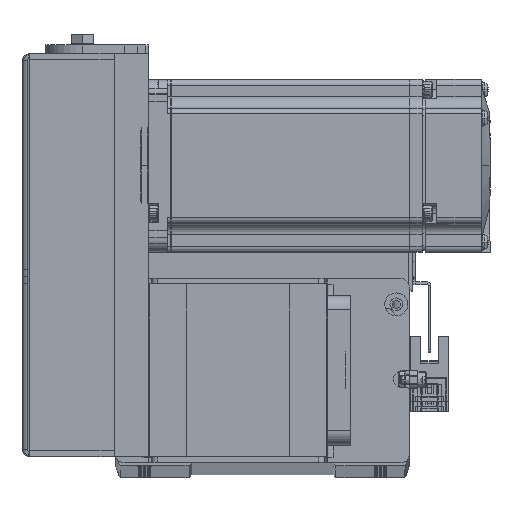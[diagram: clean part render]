
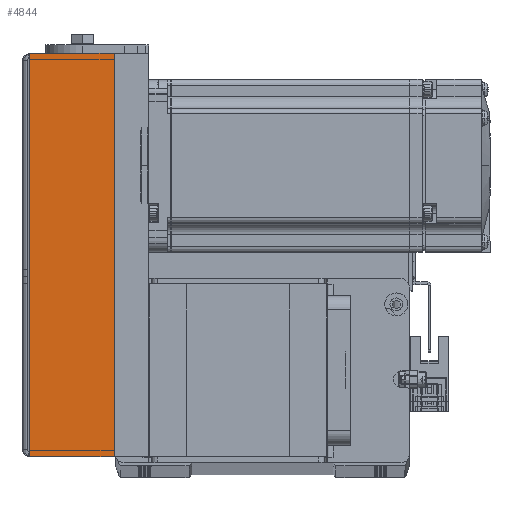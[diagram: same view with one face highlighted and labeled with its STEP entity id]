
A CAD part, top view. The second image highlights one B-rep face of the part: STEP entity #4844.
In plain terms, the highlighted planar face has unit normal (0, 0, 1).
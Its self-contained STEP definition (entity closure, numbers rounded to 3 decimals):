
#298 = EDGE_LOOP ( 'NONE', ( #17136, #13921, #48102, #11548 ) ) ;
#1461 = LINE ( 'NONE', #22924, #13846 ) ;
#2053 = EDGE_CURVE ( 'NONE', #31973, #32641, #30674, .T. ) ;
#3866 = DIRECTION ( 'NONE',  ( -1., 0., 0. ) ) ;
#3928 = DIRECTION ( 'NONE',  ( 0., 0., -1. ) ) ;
#4844 = ADVANCED_FACE ( 'NONE', ( #16045 ), #48688, .F. ) ;
#11548 = ORIENTED_EDGE ( 'NONE', *, *, #39100, .F. ) ;
#11998 = CARTESIAN_POINT ( 'NONE',  ( 0., -30., 31. ) ) ;
#12197 = CARTESIAN_POINT ( 'NONE',  ( 0., 0., 31. ) ) ;
#12518 = LINE ( 'NONE', #24589, #23619 ) ;
#13244 = VECTOR ( 'NONE', #31469, 1000. ) ;
#13846 = VECTOR ( 'NONE', #47291, 1000. ) ;
#13921 = ORIENTED_EDGE ( 'NONE', *, *, #2053, .T. ) ;
#14709 = AXIS2_PLACEMENT_3D ( 'NONE', #11998, #3928, #20327 ) ;
#16045 = FACE_OUTER_BOUND ( 'NONE', #298, .T. ) ;
#17136 = ORIENTED_EDGE ( 'NONE', *, *, #48209, .F. ) ;
#19526 = DIRECTION ( 'NONE',  ( -1., 0., 0. ) ) ;
#20327 = DIRECTION ( 'NONE',  ( 0., -1., 0. ) ) ;
#22924 = CARTESIAN_POINT ( 'NONE',  ( -70., -29.5, 31. ) ) ;
#23362 = VERTEX_POINT ( 'NONE', #37649 ) ;
#23567 = VERTEX_POINT ( 'NONE', #46475 ) ;
#23619 = VECTOR ( 'NONE', #19526, 1000. ) ;
#24589 = CARTESIAN_POINT ( 'NONE',  ( -70., -29.5, 31. ) ) ;
#26278 = VECTOR ( 'NONE', #3866, 1000. ) ;
#30674 = LINE ( 'NONE', #47556, #13244 ) ;
#31469 = DIRECTION ( 'NONE',  ( 0., 1., 0. ) ) ;
#31973 = VERTEX_POINT ( 'NONE', #52902 ) ;
#32641 = VERTEX_POINT ( 'NONE', #43444 ) ;
#37649 = CARTESIAN_POINT ( 'NONE',  ( -70., -29.5, 31. ) ) ;
#39100 = EDGE_CURVE ( 'NONE', #23362, #23567, #1461, .T. ) ;
#40871 = LINE ( 'NONE', #12197, #26278 ) ;
#43444 = CARTESIAN_POINT ( 'NONE',  ( 70., 0., 31. ) ) ;
#46475 = CARTESIAN_POINT ( 'NONE',  ( -70., 0., 31. ) ) ;
#47291 = DIRECTION ( 'NONE',  ( 0., 1., 0. ) ) ;
#47556 = CARTESIAN_POINT ( 'NONE',  ( 70., -29.5, 31. ) ) ;
#48102 = ORIENTED_EDGE ( 'NONE', *, *, #49176, .T. ) ;
#48209 = EDGE_CURVE ( 'NONE', #31973, #23362, #12518, .T. ) ;
#48688 = PLANE ( 'NONE',  #14709 ) ;
#49176 = EDGE_CURVE ( 'NONE', #32641, #23567, #40871, .T. ) ;
#52902 = CARTESIAN_POINT ( 'NONE',  ( 70., -29.5, 31. ) ) ;
